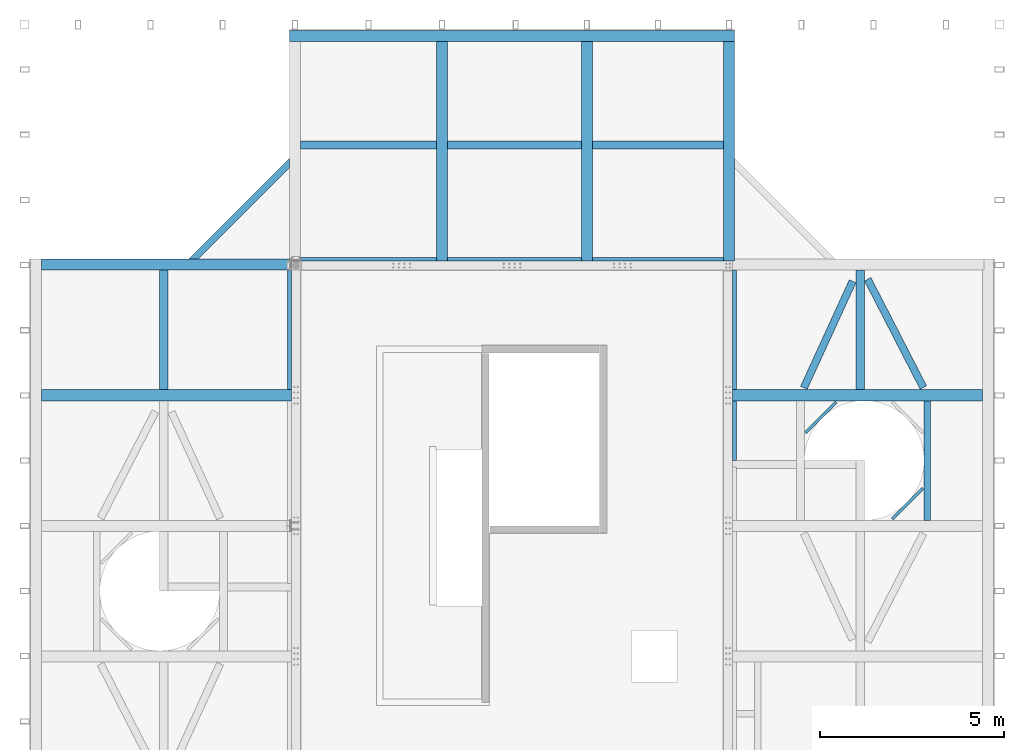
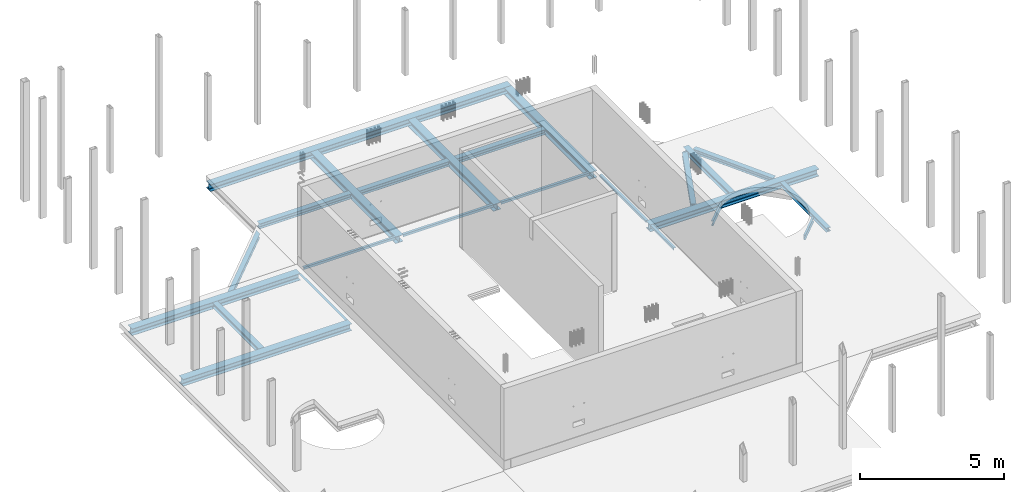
# One storey, part 9 of 16: 24 beams.
"""IFC2X3 building model written with IfcOpenShell, lengths in millimetres."""

import ifcopenshell
import ifcopenshell.guid

model = None  # the IFC model being written
_history = None  # IfcOwnerHistory: only IFC2X3 demands one
_inside = {}  # id of a spatial element -> (the spatial element, [elements in it])
_under = {}  # id of a project, library or spatial element -> (it, [spatial elements below it])
_declared = {}  # id of a project -> (the project, [libraries it declares])
_typed = {}  # id of a type object -> (the type object, [elements of that type])
_made_of = {}  # id of a material, layer set ... -> (it, [elements and type objects made of it])


def new_model(schema):
    """Start an empty IFC model of exactly this schema.

    Asked for "IFC4X3", IfcOpenShell would pick the latest addendum, in which some entities
    have other attributes; the version numbers below select the first issue.
    IFC2X3 requires an IfcOwnerHistory on every rooted entity: one is made here for all.
    """
    global model, _history
    if schema == "IFC4X3":
        model = ifcopenshell.file(schema_version=(4, 3, 0, 0))
    else:
        model = ifcopenshell.file(schema=schema)
    _inside.clear()
    _under.clear()
    _declared.clear()
    _typed.clear()
    _made_of.clear()
    _history = None
    if model.schema == "IFC2X3":
        org = make("IfcOrganization", Name="unknown")
        user = make(
            "IfcPersonAndOrganization",
            ThePerson=make("IfcPerson", FamilyName="unknown"),
            TheOrganization=org,
        )
        app = make(
            "IfcApplication",
            ApplicationDeveloper=org,
            Version="unknown",
            ApplicationFullName="unknown",
            ApplicationIdentifier="unknown",
        )
        _history = make(
            "IfcOwnerHistory",
            OwningUser=user,
            OwningApplication=app,
            ChangeAction="ADDED",
            CreationDate=0,
        )
    return model


def make(cls, **values):
    """One entity of the class cls with the attributes given. An attribute that is None is left unset."""
    return model.create_entity(
        cls, **{name: value for name, value in values.items() if value is not None}
    )


def entity(cls, *values):
    """Any entity or typed value of the class cls, its attributes in the order of the schema. None: left unset."""
    e = model.create_entity(cls)
    for i, value in enumerate(values):
        if value is not None:
            e[i] = value
    return e


def rooted(cls, **values):
    """An entity with a GlobalId (a new one), such as an element, a storey or a relation."""
    return make(cls, GlobalId=ifcopenshell.guid.new(), OwnerHistory=_history, **values)


def si_unit(unit_type, name, prefix=None):
    """IfcSIUnit, for example si_unit("LENGTHUNIT", "METRE", prefix="MILLI")."""
    return make("IfcSIUnit", UnitType=unit_type, Prefix=prefix, Name=name)


def converted_unit(unit_type, name, factor, base, dimensions=None, offset=None):
    """IfcConversionBasedUnit, such as the inch: factor (a typed value) times the base unit."""
    return make(
        "IfcConversionBasedUnit"
        if offset is None
        else "IfcConversionBasedUnitWithOffset",
        ConversionOffset=offset,
        Dimensions=None
        if dimensions is None
        else entity("IfcDimensionalExponents", *dimensions),
        UnitType=unit_type,
        Name=name,
        ConversionFactor=make(
            "IfcMeasureWithUnit", ValueComponent=factor, UnitComponent=base
        ),
    )


def derived_unit(unit_type, elements):
    """IfcDerivedUnit: a product of units, each with its exponent."""
    return make(
        "IfcDerivedUnit",
        Elements=[
            make("IfcDerivedUnitElement", Unit=unit, Exponent=power)
            for unit, power in elements
        ],
        UnitType=unit_type,
    )


def assignment(units):
    """IfcUnitAssignment: the units of a project."""
    return None if units is None else make("IfcUnitAssignment", Units=units)


def point(xyz):
    """IfcCartesianPoint."""
    return None if xyz is None else make("IfcCartesianPoint", Coordinates=xyz)


def direction(xyz):
    """IfcDirection."""
    return None if xyz is None else make("IfcDirection", DirectionRatios=xyz)


def frame(location, z_axis=None, x_axis=None):
    """IfcAxis2Placement3D, a coordinate frame: its origin and axes. An axis left out is left unset."""
    return make(
        "IfcAxis2Placement3D",
        Location=point(location),
        Axis=direction(z_axis),
        RefDirection=direction(x_axis),
    )


def frame_2d(location, x_axis=None):
    """IfcAxis2Placement2D, a coordinate frame in the plane: its origin and x axis."""
    return make(
        "IfcAxis2Placement2D", Location=point(location), RefDirection=direction(x_axis)
    )


def origin():
    """The frame at (0, 0, 0) with its axes left unset."""
    return frame((0.0, 0.0, 0.0))


def place(relative_to, where):
    """IfcLocalPlacement: puts the frame where relative to a parent placement (None: the world)."""
    return make(
        "IfcLocalPlacement", PlacementRelTo=relative_to, RelativePlacement=where
    )


def context(
    kind, dimensions, precision=None, world=None, true_north=None, identifier=None
):
    """IfcGeometricRepresentationContext, for example the 3D "Model" context."""
    return make(
        "IfcGeometricRepresentationContext",
        ContextIdentifier=identifier,
        ContextType=kind,
        CoordinateSpaceDimension=dimensions,
        Precision=precision,
        WorldCoordinateSystem=world,
        TrueNorth=true_north,
    )


def subcontext(parent, identifier, kind, view, scale=None):
    """IfcGeometricRepresentationSubContext, for example "Body" below "Model"."""
    return make(
        "IfcGeometricRepresentationSubContext",
        ContextIdentifier=identifier,
        ContextType=kind,
        ParentContext=parent,
        TargetScale=scale,
        TargetView=view,
    )


def project(units=None, contexts=None):
    """IfcProject with its units and contexts."""
    return rooted(
        "IfcProject",
        Name="project",
        RepresentationContexts=contexts,
        UnitsInContext=assignment(units),
    )


def spatial(cls, under=None, at=None, **own):
    """A site, building, storey or space (cls), placed at a placement, below another one or the project."""
    s = rooted(cls, ObjectPlacement=at, **own)
    if under is not None:
        _under.setdefault(under.id(), (under, []))[1].append(s)
    return s


def polyline(points):
    """IfcPolyline through the points."""
    return make("IfcPolyline", Points=[point(p) for p in points])


def circle_curve(where, radius):
    """IfcCircle in the frame where."""
    return make("IfcCircle", Position=where, Radius=radius)


def parameter(value):
    """IfcParameterValue: where a trimmed curve begins or ends, as a parameter of its basis curve."""
    return model.create_entity("IfcParameterValue", value)


def trimmed(basis, trim1, trim2, sense, master):
    """IfcTrimmedCurve: the piece of a basis curve between two trims."""
    return make(
        "IfcTrimmedCurve",
        BasisCurve=basis,
        Trim1=trim1,
        Trim2=trim2,
        SenseAgreement=sense,
        MasterRepresentation=master,
    )


def segment(curve, same_sense, transition):
    """IfcCompositeCurveSegment."""
    return make(
        "IfcCompositeCurveSegment",
        Transition=transition,
        SameSense=same_sense,
        ParentCurve=curve,
    )


def composite_curve(segments, self_intersect=None):
    """IfcCompositeCurve: segments joined end to end."""
    return make("IfcCompositeCurve", Segments=segments, SelfIntersect=self_intersect)


def profile(cls, at=None, kind="AREA", **sizes):
    """A parametric profile (cls). Its sizes go by their IFC names, for example OverallWidth=200.0."""
    return make(cls, ProfileType=kind, Position=at, **sizes)


def i_section(**sizes):
    """IfcIShapeProfileDef."""
    return profile("IfcIShapeProfileDef", **sizes)


def outline(outer, holes=None, kind="AREA"):
    """IfcArbitraryClosedProfileDef: a profile drawn as a closed curve; with holes, ...WithVoids."""
    if holes is None:
        return make("IfcArbitraryClosedProfileDef", ProfileType=kind, OuterCurve=outer)
    return make(
        "IfcArbitraryProfileDefWithVoids",
        ProfileType=kind,
        OuterCurve=outer,
        InnerCurves=holes,
    )


def extrude(swept, where, along, depth):
    """IfcExtrudedAreaSolid: the profile swept, set in the frame where, extruded along a direction by depth."""
    return make(
        "IfcExtrudedAreaSolid",
        SweptArea=swept,
        Position=where,
        ExtrudedDirection=direction(along),
        Depth=depth,
    )


def clip(a, b, op="DIFFERENCE"):
    """IfcBooleanClippingResult: the solid a cut by the half space b."""
    return make(
        "IfcBooleanClippingResult", Operator=op, FirstOperand=a, SecondOperand=b
    )


def halfspace(plane, agree):
    """IfcHalfSpaceSolid: all space on one side of the plane z = 0 of the frame plane."""
    return make(
        "IfcHalfSpaceSolid",
        BaseSurface=make("IfcPlane", Position=plane),
        AgreementFlag=agree,
    )


def shape(context_of_items, identifier, shape_type, items):
    """IfcShapeRepresentation: the items that make up one representation, for example the "Body"."""
    return make(
        "IfcShapeRepresentation",
        ContextOfItems=context_of_items,
        RepresentationIdentifier=identifier,
        RepresentationType=shape_type,
        Items=items,
    )


def material(Name=None, Category=None):
    """IfcMaterial."""
    return make("IfcMaterial", Name=Name, Category=Category)


def made_of(thing, what):
    """Note that an element or type object is made of a material, layer set ...; save() writes the relation."""
    if what is not None:
        _made_of.setdefault(what.id(), (what, []))[1].append(thing)
    return thing


def type_object(cls, material=None, **own):
    """A type object (cls), such as IfcWallType, which elements share."""
    return made_of(rooted(cls, **own), material)


def element(
    cls,
    number,
    at=None,
    inside=None,
    cuts=None,
    type_object=None,
    material=None,
    context=None,
    identifier="Body",
    shape_type=None,
    held_by="IfcProductDefinitionShape",
    body=None,
    shapes=None,
    **own,
):
    """One element of the class cls, such as IfcWall. Its Tag is "e" and its number.

    at: its placement. inside: the storey or other place that contains it. cuts: it is an
    opening in that element (IfcRelVoidsElement). A single representation is given by context,
    identifier, shape_type and body (its items); several are given by shapes. held_by: the class
    of the entity that holds the representations. save() writes the other relations.
    """
    e = rooted(cls, Tag="e%d" % number, ObjectPlacement=at, **own)
    if body is not None:
        shapes = [shape(context, identifier, shape_type, body)]
    if shapes is not None:
        e.Representation = make(held_by, Representations=shapes)
    if inside is not None:
        _inside.setdefault(inside.id(), (inside, []))[1].append(e)
    if cuts is not None:
        rooted(
            "IfcRelVoidsElement", RelatingBuildingElement=cuts, RelatedOpeningElement=e
        )
    if type_object is not None:
        _typed.setdefault(type_object.id(), (type_object, []))[1].append(e)
    return made_of(e, material)


def aggregate(whole, parts):
    """IfcRelAggregates: a whole, such as a stair, and the parts it consists of."""
    return rooted("IfcRelAggregates", RelatingObject=whole, RelatedObjects=parts)


def save(model, path):
    """Write the relations noted so far, then the file.

    IfcRelAggregates (storeys below a building ...), IfcRelContainedInSpatialStructure (elements
    in a storey), IfcRelDefinesByType, IfcRelAssociatesMaterial and IfcRelDeclares: one each for
    every whole, place, type object, material and project.
    """
    for whole, parts in _under.values():
        aggregate(whole, parts)
    for where, things in _inside.values():
        rooted(
            "IfcRelContainedInSpatialStructure",
            RelatedElements=things,
            RelatingStructure=where,
        )
    for kind, things in _typed.values():
        rooted("IfcRelDefinesByType", RelatedObjects=things, RelatingType=kind)
    for what, things in _made_of.values():
        rooted("IfcRelAssociatesMaterial", RelatedObjects=things, RelatingMaterial=what)
    for by, libraries in _declared.values():
        rooted("IfcRelDeclares", RelatingContext=by, RelatedDefinitions=libraries)
    model.write(path)


model = new_model("IFC2X3")

# Units and contexts
model_context = context("Model", 3, precision=0.01, world=origin(), true_north=direction((6.12303176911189e-17, 1.0)))
body_context = subcontext(model_context, "Body", "Model", "MODEL_VIEW")
ifc_project = project(units=[si_unit("LENGTHUNIT", "METRE", prefix="MILLI"), si_unit("AREAUNIT", "SQUARE_METRE"), si_unit("VOLUMEUNIT", "CUBIC_METRE"), converted_unit("PLANEANGLEUNIT", "DEGREE", entity("IfcRatioMeasure", 0.0174532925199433), si_unit("PLANEANGLEUNIT", "RADIAN"), dimensions=[0, 0, 0, 0, 0, 0, 0]), si_unit("MASSUNIT", "GRAM", prefix="KILO"), derived_unit("MASSDENSITYUNIT", [(si_unit("MASSUNIT", "GRAM", prefix="KILO"), 1), (si_unit("LENGTHUNIT", "METRE"), -3)]), si_unit("TIMEUNIT", "SECOND"), si_unit("FREQUENCYUNIT", "HERTZ"), si_unit("THERMODYNAMICTEMPERATUREUNIT", "DEGREE_CELSIUS"), derived_unit("THERMALTRANSMITTANCEUNIT", [(si_unit("MASSUNIT", "GRAM", prefix="KILO"), 1), (si_unit("THERMODYNAMICTEMPERATUREUNIT", "KELVIN"), -1), (si_unit("TIMEUNIT", "SECOND"), -3)]), derived_unit("VOLUMETRICFLOWRATEUNIT", [(si_unit("LENGTHUNIT", "METRE"), 3), (si_unit("TIMEUNIT", "SECOND"), -1)]), si_unit("ELECTRICCURRENTUNIT", "AMPERE"), si_unit("ELECTRICVOLTAGEUNIT", "VOLT"), si_unit("POWERUNIT", "WATT"), si_unit("FORCEUNIT", "NEWTON", prefix="KILO"), si_unit("ILLUMINANCEUNIT", "LUX"), si_unit("LUMINOUSFLUXUNIT", "LUMEN"), si_unit("LUMINOUSINTENSITYUNIT", "CANDELA"), derived_unit("USERDEFINED", [(si_unit("MASSUNIT", "GRAM", prefix="KILO"), -1), (si_unit("LENGTHUNIT", "METRE"), -2), (si_unit("TIMEUNIT", "SECOND"), 3), (si_unit("LUMINOUSFLUXUNIT", "LUMEN"), 1)]), derived_unit("LINEARVELOCITYUNIT", [(si_unit("LENGTHUNIT", "METRE"), 1), (si_unit("TIMEUNIT", "SECOND"), -1)]), si_unit("PRESSUREUNIT", "PASCAL"), derived_unit("USERDEFINED", [(si_unit("LENGTHUNIT", "METRE"), -2), (si_unit("MASSUNIT", "GRAM", prefix="KILO"), 1), (si_unit("TIMEUNIT", "SECOND"), -2)])], contexts=[model_context])

# Site, building, storey
site_placement = place(None, origin())
site = spatial("IfcSite", under=ifc_project, at=site_placement, Name="Default", CompositionType="ELEMENT")
building_placement = place(site_placement, origin())
building = spatial("IfcBuilding", under=site, at=building_placement, Name="niet gebruiken", CompositionType="ELEMENT")
storey_placement = place(building_placement, frame((0.0, 0.0, 183150.0)))
storey = spatial("IfcBuildingStorey", under=building, at=storey_placement, Name="58 achtenvijftigste verdieping", CompositionType="ELEMENT", Elevation=183150.0)

# Beams
ifc_material = material(Name="NLRS_h2_staal")
beam_type_1 = type_object("IfcBeamType", Name="NLRS_28.11_SF_WPB_stalen ligger HEA_gen:ligger HEA 200", PredefinedType="BEAM")
beam_1_placement = place(storey_placement, frame((153045.0, 21050.0, -570.0), z_axis=(0.0, 0.0, 1.0), x_axis=(-0.457206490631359, 0.889360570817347, 0.0)))
element("IfcBeam", 1, at=beam_1_placement, inside=storey, type_object=beam_type_1, material=ifc_material, Name="NLRS_28.11_SF_WPB_stalen ligger HEA_gen:ligger HEA 200", ObjectType="NLRS_28.11_SF_WPB_stalen ligger HEA_gen:ligger HEA 200", context=body_context, shape_type="SweptSolid", body=[
    extrude(i_section(OverallWidth=200.000000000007, OverallDepth=189.999999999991, WebThickness=6.49999999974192, FlangeThickness=9.99999999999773, FilletRadius=17.9999999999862, at=frame_2d((0.0, 1.83817405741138e-11), x_axis=(0.0, 1.0))), frame((232.76895232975, 0.0, -95.0), z_axis=(1.0, 0.0, 0.0), x_axis=(0.0, 0.0, -1.0)), (0.0, 0.0, 1.0), 3313.79396714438),
])
beam_2_placement = place(storey_placement, frame((149595.0, 21050.0, -570.0), z_axis=(0.0, 0.0, 1.0), x_axis=(0.416213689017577, 0.909266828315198, 0.0)))
element("IfcBeam", 2, at=beam_2_placement, inside=storey, type_object=beam_type_1, material=ifc_material, Name="NLRS_28.11_SF_WPB_stalen ligger HEA_gen:ligger HEA 200", ObjectType="NLRS_28.11_SF_WPB_stalen ligger HEA_gen:ligger HEA 200", context=body_context, shape_type="SweptSolid", body=[
    extrude(i_section(OverallWidth=200.000000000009, OverallDepth=189.999999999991, WebThickness=6.49999999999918, FlangeThickness=9.99999999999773, FilletRadius=17.9999999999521, at=frame_2d((0.0, 1.84599002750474e-11), x_axis=(0.0, 1.0))), frame((223.442724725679, 0.0, -95.0), z_axis=(1.0, 0.0, 0.0), x_axis=(0.0, 0.0, -1.0)), (0.0, 0.0, 1.0), 3184.92180444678),
])
beam_type_2 = type_object("IfcBeamType", Name="NLRS_28.11_SF_WPB_stalen ligger HEA_gen:ligger HEA 220", PredefinedType="BEAM")
beam_3_placement = place(storey_placement, frame((143933.333333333, 27855.0, -570.0)))
element("IfcBeam", 3, at=beam_3_placement, inside=storey, type_object=beam_type_2, material=ifc_material, Name="NLRS_28.11_SF_WPB_stalen ligger HEA_gen:ligger HEA 220", ObjectType="NLRS_28.11_SF_WPB_stalen ligger HEA_gen:ligger HEA 220", context=body_context, shape_type="SweptSolid", body=[
    extrude(i_section(OverallWidth=219.999999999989, OverallDepth=209.999999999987, WebThickness=7.00000000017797, FlangeThickness=10.9999999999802, FilletRadius=17.9999999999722, at=frame_2d((-3.46531692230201e-11, -4.32720526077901e-12), x_axis=(0.0, 1.0))), frame((0.0, 0.0, -105.0), z_axis=(1.0, 0.0, 0.0), x_axis=(0.0, 0.0, -1.0)), (0.0, 0.0, 1.0), 3566.66000000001),
])
beam_4_placement = place(storey_placement, frame((151220.0, 21200.0, -570.0), z_axis=(0.0, 0.0, 1.0), x_axis=(0.0, 1.0, 0.0)))
element("IfcBeam", 4, at=beam_4_placement, inside=storey, type_object=beam_type_2, material=ifc_material, Name="NLRS_28.11_SF_WPB_stalen ligger HEA_gen:ligger HEA 220", ObjectType="NLRS_28.11_SF_WPB_stalen ligger HEA_gen:ligger HEA 220", context=body_context, shape_type="SweptSolid", body=[
    extrude(i_section(OverallWidth=219.999999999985, OverallDepth=209.999999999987, WebThickness=7.00000000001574, FlangeThickness=10.9999999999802, FilletRadius=17.9999999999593, at=frame_2d((-3.46531692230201e-11, 3.46531692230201e-11), x_axis=(0.0, 1.0))), frame((0.0, 0.0, -105.0), z_axis=(1.0, 0.0, 0.0), x_axis=(0.0, 0.0, -1.0)), (0.0, 0.0, 1.0), 3250.0),
])
beam_5_placement = place(storey_placement, frame((139700.0, 27855.0, -570.0), z_axis=(0.0, 0.0, 1.0), x_axis=(-1.0, 0.0, 0.0)))
element("IfcBeam", 5, at=beam_5_placement, inside=storey, type_object=beam_type_2, material=ifc_material, Name="NLRS_28.11_SF_WPB_stalen ligger HEA_gen:ligger HEA 220", ObjectType="NLRS_28.11_SF_WPB_stalen ligger HEA_gen:ligger HEA 220", context=body_context, shape_type="SweptSolid", body=[
    extrude(i_section(OverallWidth=220.000000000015, OverallDepth=209.999999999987, WebThickness=6.99999999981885, FlangeThickness=10.9999999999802, FilletRadius=17.9999999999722, at=frame_2d((-3.46531692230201e-11, 0.0), x_axis=(0.0, 1.0))), frame((0.0, 0.0, -105.0), z_axis=(1.0, 0.0, 0.0), x_axis=(0.0, 0.0, -1.0)), (0.0, 0.0, 1.0), 3699.99999999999),
])
beam_6_placement = place(storey_placement, frame((143633.33, 27855.0, -570.0), z_axis=(0.0, 0.0, 1.0), x_axis=(-1.0, 0.0, 0.0)))
element("IfcBeam", 6, at=beam_6_placement, inside=storey, type_object=beam_type_2, material=ifc_material, Name="NLRS_28.11_SF_WPB_stalen ligger HEA_gen:ligger HEA 220", ObjectType="NLRS_28.11_SF_WPB_stalen ligger HEA_gen:ligger HEA 220", context=body_context, shape_type="SweptSolid", body=[
    extrude(i_section(OverallWidth=220.000000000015, OverallDepth=209.999999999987, WebThickness=6.99999999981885, FlangeThickness=10.9999999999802, FilletRadius=17.9999999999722, at=frame_2d((-3.46531692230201e-11, -4.32720526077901e-12), x_axis=(0.0, 1.0))), frame((0.0, 0.0, -105.0), z_axis=(1.0, 0.0, 0.0), x_axis=(0.0, 0.0, -1.0)), (0.0, 0.0, 1.0), 3633.33000000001),
])
beam_7_placement = place(storey_placement, frame((132280.0, 24450.0, -570.0), z_axis=(0.0, 0.0, 1.0), x_axis=(0.0, -1.0, 0.0)))
element("IfcBeam", 7, at=beam_7_placement, inside=storey, type_object=beam_type_2, material=ifc_material, Name="NLRS_28.11_SF_WPB_stalen ligger HEA_gen:ligger HEA 220", ObjectType="NLRS_28.11_SF_WPB_stalen ligger HEA_gen:ligger HEA 220", context=body_context, shape_type="SweptSolid", body=[
    extrude(i_section(OverallWidth=220.000000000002, OverallDepth=209.999999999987, WebThickness=7.00000000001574, FlangeThickness=11.0000000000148, FilletRadius=17.9999999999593, at=frame_2d((-3.46531692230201e-11, 1.73301373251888e-11), x_axis=(0.0, 1.0))), frame((0.0, 0.0, -105.0), z_axis=(1.0, 0.0, 0.0), x_axis=(0.0, 0.0, -1.0)), (0.0, 0.0, 1.0), 3250.0),
])
beam_type_3 = type_object("IfcBeamType", Name="NLRS_28.11_SF_WPB_stalen ligger HEA_gen:ligger HEA 300", PredefinedType="BEAM")
beam_8_placement = place(storey_placement, frame((147650.0, 24700.0, -570.0), z_axis=(0.0, 0.0, 1.0), x_axis=(0.0, 1.0, 0.0)))
element("IfcBeam", 8, at=beam_8_placement, inside=storey, type_object=beam_type_3, material=ifc_material, Name="NLRS_28.11_SF_WPB_stalen ligger HEA_gen:ligger HEA 300", ObjectType="NLRS_28.11_SF_WPB_stalen ligger HEA_gen:ligger HEA 300", context=body_context, shape_type="SweptSolid", body=[
    extrude(i_section(OverallWidth=300.000000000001, OverallDepth=289.999999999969, WebThickness=8.50000000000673, FlangeThickness=13.9999999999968, FilletRadius=27.0000000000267, at=frame_2d((-3.46460637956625e-11, 0.0), x_axis=(0.0, 1.0))), frame((0.0, 0.0, -145.0), z_axis=(1.0, 0.0, 0.0), x_axis=(0.0, 0.0, -1.0)), (0.0, 0.0, 1.0), 5964.0),
])
beam_9_placement = place(storey_placement, frame((135725.0, 24600.0, -570.0), z_axis=(0.0, 0.0, 1.0), x_axis=(-1.0, 0.0, 0.0)))
element("IfcBeam", 9, at=beam_9_placement, inside=storey, type_object=beam_type_3, material=ifc_material, Name="NLRS_28.11_SF_WPB_stalen ligger HEA_gen:ligger HEA 300", ObjectType="NLRS_28.11_SF_WPB_stalen ligger HEA_gen:ligger HEA 300", context=body_context, shape_type="SweptSolid", body=[
    extrude(i_section(OverallWidth=300.000000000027, OverallDepth=289.999999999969, WebThickness=8.49999999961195, FlangeThickness=13.9999999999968, FilletRadius=27.0000000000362, at=frame_2d((-3.46460637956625e-11, 0.0), x_axis=(0.0, 1.0))), frame((0.0, 0.0, -145.0), z_axis=(1.0, 0.0, 0.0), x_axis=(0.0, 0.0, -1.0)), (0.0, 0.0, 1.0), 6764.00000000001),
])
beam_10_placement = place(storey_placement, frame((147800.0, 30964.0, -570.0), z_axis=(0.0, 0.0, 1.0), x_axis=(-1.0, 0.0, 0.0)))
element("IfcBeam", 10, at=beam_10_placement, inside=storey, type_object=beam_type_3, material=ifc_material, Name="NLRS_28.11_SF_WPB_stalen ligger HEA_gen:ligger HEA 300", ObjectType="NLRS_28.11_SF_WPB_stalen ligger HEA_gen:ligger HEA 300", context=body_context, shape_type="SweptSolid", body=[
    extrude(i_section(OverallWidth=300.000000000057, OverallDepth=290.000000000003, WebThickness=8.49999999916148, FlangeThickness=14.0000000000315, FilletRadius=27.0000000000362, at=frame_2d((-3.46460637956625e-11, 0.0), x_axis=(0.0, 1.0))), frame((0.0, 150.0, -145.0), z_axis=(1.0, 0.0, 0.0), x_axis=(0.0, 0.0, -1.0)), (0.0, 0.0, 1.0), 12099.9999999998),
])
beam_11_placement = place(storey_placement, frame((143783.333333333, 24700.0, -570.0), z_axis=(0.0, 0.0, 1.0), x_axis=(0.0, 1.0, 0.0)))
element("IfcBeam", 11, at=beam_11_placement, inside=storey, type_object=beam_type_3, material=ifc_material, Name="NLRS_28.11_SF_WPB_stalen ligger HEA_gen:ligger HEA 300", ObjectType="NLRS_28.11_SF_WPB_stalen ligger HEA_gen:ligger HEA 300", context=body_context, shape_type="SweptSolid", body=[
    extrude(i_section(OverallWidth=300.000000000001, OverallDepth=289.999999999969, WebThickness=8.50000000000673, FlangeThickness=13.9999999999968, FilletRadius=27.0000000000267, at=frame_2d((-3.46460637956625e-11, -3.46602746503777e-11), x_axis=(0.0, 1.0))), frame((0.0, 0.0, -145.0), z_axis=(1.0, 0.0, 0.0), x_axis=(0.0, 0.0, -1.0)), (0.0, 0.0, 1.0), 5964.0),
])
beam_12_placement = place(storey_placement, frame((139850.0, 24700.0, -570.0), z_axis=(0.0, 0.0, 1.0), x_axis=(0.0, 1.0, 0.0)))
element("IfcBeam", 12, at=beam_12_placement, inside=storey, type_object=beam_type_3, material=ifc_material, Name="NLRS_28.11_SF_WPB_stalen ligger HEA_gen:ligger HEA 300", ObjectType="NLRS_28.11_SF_WPB_stalen ligger HEA_gen:ligger HEA 300", context=body_context, shape_type="SweptSolid", body=[
    extrude(i_section(OverallWidth=300.000000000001, OverallDepth=289.999999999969, WebThickness=8.50000000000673, FlangeThickness=13.9999999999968, FilletRadius=27.0000000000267, at=frame_2d((-3.46460637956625e-11, 1.73230318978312e-11), x_axis=(0.0, 1.0))), frame((0.0, 0.0, -145.0), z_axis=(1.0, 0.0, 0.0), x_axis=(0.0, 0.0, -1.0)), (0.0, 0.0, 1.0), 5964.0),
])
beam_13_placement = place(storey_placement, frame((135750.0, 21050.0, -570.0), z_axis=(0.0, 0.0, 1.0), x_axis=(-1.0, 0.0, 0.0)))
element("IfcBeam", 13, at=beam_13_placement, inside=storey, type_object=beam_type_3, material=ifc_material, Name="NLRS_28.11_SF_WPB_stalen ligger HEA_gen:ligger HEA 300", ObjectType="NLRS_28.11_SF_WPB_stalen ligger HEA_gen:ligger HEA 300", context=body_context, shape_type="SweptSolid", body=[
    extrude(i_section(OverallWidth=300.000000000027, OverallDepth=289.999999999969, WebThickness=8.49999999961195, FlangeThickness=13.9999999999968, FilletRadius=27.0000000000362, at=frame_2d((-3.46460637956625e-11, 0.0), x_axis=(0.0, 1.0))), frame((0.0, 0.0, -145.0), z_axis=(1.0, 0.0, 0.0), x_axis=(0.0, 0.0, -1.0)), (0.0, 0.0, 1.0), 6789.0),
])
beam_type_4 = type_object("IfcBeamType", Name="NLRS_28.11_SF_WPB_stalen ligger HEB_gen:ligger HEB 300", PredefinedType="BEAM")
beam_14_placement = place(storey_placement, frame((154539.0, 21050.0, -570.0), z_axis=(0.0, 0.0, 1.0), x_axis=(-1.0, 0.0, 0.0)))
element("IfcBeam", 14, at=beam_14_placement, inside=storey, type_object=beam_type_4, material=ifc_material, Name="NLRS_28.11_SF_WPB_stalen ligger HEB_gen:ligger HEB 300", ObjectType="NLRS_28.11_SF_WPB_stalen ligger HEB_gen:ligger HEB 300", context=body_context, shape_type="SweptSolid", body=[
    extrude(i_section(OverallWidth=300.000000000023, OverallDepth=300.000000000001, WebThickness=10.9999999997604, FlangeThickness=18.9999999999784, FilletRadius=27.0000000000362, at=frame_2d((0.0, 4.33431068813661e-12), x_axis=(0.0, 1.0))), frame((0.0, 0.0, -150.0), z_axis=(1.0, 0.0, 0.0), x_axis=(0.0, 0.0, -1.0)), (0.0, 0.0, 1.0), 6789.0),
])
beam_type_5 = type_object("IfcBeamType", Name="NLRS_28.11_SF_WPB_stalen ligger HEA_gen:ligger HEA 180", PredefinedType="BEAM")
beam_15_placement = place(storey_placement, frame((136338.183258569, 28000.9040379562, -570.0), z_axis=(0.0, 0.0, 1.0), x_axis=(-0.70710678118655, -0.707106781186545, 0.0)))
element("IfcBeam", 15, at=beam_15_placement, inside=storey, type_object=beam_type_5, material=ifc_material, Name="NLRS_28.11_SF_WPB_stalen ligger HEA_gen:ligger HEA 180", ObjectType="NLRS_28.11_SF_WPB_stalen ligger HEA_gen:ligger HEA 180", context=body_context, shape_type="Clipping", body=[
    clip(clip(extrude(i_section(OverallWidth=180.000000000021, OverallDepth=171.000000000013, WebThickness=6.00000000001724, FlangeThickness=9.49999999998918, FilletRadius=15.0000000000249, at=frame_2d((-3.46460637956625e-11, -1.07149844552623e-11), x_axis=(0.0, 1.0))), frame((812.527419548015, 0.0, -85.5000000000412), z_axis=(1.0, 0.0, 0.0), x_axis=(0.0, 0.0, -1.0)), (0.0, 0.0, 1.0), 3874.94516090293), halfspace(frame((5226.64150110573, -629.168920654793, -5385.50000000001), z_axis=(0.707106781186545, 0.70710678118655, 0.0), x_axis=(0.0, 0.0, 1.0)), False)), halfspace(frame((27714.4803005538, 26811.9528810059, 2165.0), z_axis=(-0.70710678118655, 0.707106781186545, 0.0), x_axis=(0.707106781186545, 0.70710678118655, 0.0)), False)),
])
beam_16_placement = place(storey_placement, frame((153045.0, 17650.0, -570.0), z_axis=(0.0, 0.0, 1.0), x_axis=(0.0, 1.0, 0.0)))
element("IfcBeam", 16, at=beam_16_placement, inside=storey, type_object=beam_type_5, material=ifc_material, Name="NLRS_28.11_SF_WPB_stalen ligger HEA_gen:ligger HEA 180", ObjectType="NLRS_28.11_SF_WPB_stalen ligger HEA_gen:ligger HEA 180", context=body_context, shape_type="SweptSolid", body=[
    extrude(i_section(OverallWidth=179.999999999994, OverallDepth=171.000000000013, WebThickness=5.99999999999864, FlangeThickness=9.49999999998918, FilletRadius=15.0000000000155, at=frame_2d((-3.46460637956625e-11, -1.73301373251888e-11), x_axis=(0.0, 1.0))), frame((0.0, 0.0, -85.5000000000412), z_axis=(1.0, 0.0, 0.0), x_axis=(0.0, 0.0, -1.0)), (0.0, 0.0, 1.0), 3250.0),
])
beam_type_6 = type_object("IfcBeamType", Name="NLRS_28.11_SF_WPB_stalen ligger hoekprofiel gelijkzijdig_gen:ligger gelijzijdig hoekprofiel LEQU_100x100x10", PredefinedType="BEAM")
beam_17_placement = place(storey_placement, frame((135750.0, 24450.0, -570.0), z_axis=(0.0, 0.0, 1.0), x_axis=(0.0, -1.0, 0.0)))
element("IfcBeam", 17, at=beam_17_placement, inside=storey, type_object=beam_type_6, material=ifc_material, Name="NLRS_28.11_SF_WPB_stalen ligger hoekprofiel gelijkzijdig_gen:ligger gelijzijdig hoekprofiel LEQU_100x100x10", ObjectType="NLRS_28.11_SF_WPB_stalen ligger hoekprofiel gelijkzijdig_gen:ligger gelijzijdig hoekprofiel LEQU_100x100x10", context=body_context, shape_type="SweptSolid", body=[
    extrude(outline(composite_curve([segment(polyline([(-37.7777777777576, -62.2222222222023), (-33.7777777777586, -62.2222222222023)]), True, "CONTINUOUS"), segment(trimmed(circle_curve(frame_2d((-33.7777777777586, -56.222222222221), x_axis=(0.0, -1.0)), 5.99999999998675), [parameter(0.0)], [parameter(90.0000000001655)], True, "PARAMETER"), True, "CONTINUOUS"), segment(polyline([(-27.7777777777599, -56.2222222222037), (-27.7777777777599, 15.7777777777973)]), True, "CONTINUOUS"), segment(trimmed(circle_curve(frame_2d((-15.7777777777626, 15.7777777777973), x_axis=(-1.0, 0.0)), 12.0000000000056), [parameter(270.0)], [parameter(0.0)], True, "PARAMETER"), False, "CONTINUOUS"), segment(polyline([(-15.7777777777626, 27.7777777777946), (56.222222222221, 27.7777777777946)]), True, "CONTINUOUS"), segment(trimmed(circle_curve(frame_2d((56.2222222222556, 33.7777777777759), x_axis=(0.0, -1.0)), 5.99999999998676), [parameter(0.0)], [parameter(90.0000000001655)], True, "PARAMETER"), True, "CONTINUOUS"), segment(polyline([(62.2222222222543, 33.7777777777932), (62.2222222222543, 37.7777777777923)]), True, "CONTINUOUS"), segment(polyline([(62.2222222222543, 37.7777777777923), (-37.7777777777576, 37.7777777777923)]), True, "CONTINUOUS"), segment(polyline([(-37.7777777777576, 37.7777777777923), (-37.7777777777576, -62.2222222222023)]), True, "CONTINUOUS")], self_intersect=False)), frame((0.0, -37.7777777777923, -37.7777777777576), z_axis=(1.0, 0.0, 0.0), x_axis=(0.0, 0.0, -1.0)), (0.0, 0.0, 1.0), 3250.0),
])
beam_18_placement = place(storey_placement, frame((147750.0, 21200.3287196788, -570.0), z_axis=(0.0, 0.0, 1.0), x_axis=(0.0, 1.0, 0.0)))
element("IfcBeam", 18, at=beam_18_placement, inside=storey, type_object=beam_type_6, material=ifc_material, Name="NLRS_28.11_SF_WPB_stalen ligger hoekprofiel gelijkzijdig_gen:ligger gelijzijdig hoekprofiel LEQU_100x100x10", ObjectType="NLRS_28.11_SF_WPB_stalen ligger hoekprofiel gelijkzijdig_gen:ligger gelijzijdig hoekprofiel LEQU_100x100x10", context=body_context, shape_type="SweptSolid", body=[
    extrude(outline(composite_curve([segment(polyline([(-37.7777777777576, -62.2222222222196), (-33.7777777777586, -62.2222222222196)]), True, "CONTINUOUS"), segment(trimmed(circle_curve(frame_2d((-33.7777777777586, -56.2222222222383), x_axis=(0.0, -1.0)), 5.99999999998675), [parameter(0.0)], [parameter(90.0000000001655)], True, "PARAMETER"), True, "CONTINUOUS"), segment(polyline([(-27.7777777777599, -56.222222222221), (-27.7777777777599, 15.77777777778)]), True, "CONTINUOUS"), segment(trimmed(circle_curve(frame_2d((-15.7777777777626, 15.77777777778), x_axis=(-1.0, 0.0)), 12.0000000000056), [parameter(270.0)], [parameter(0.0)], True, "PARAMETER"), False, "CONTINUOUS"), segment(polyline([(-15.7777777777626, 27.7777777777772), (56.222222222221, 27.7777777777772)]), True, "CONTINUOUS"), segment(trimmed(circle_curve(frame_2d((56.2222222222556, 33.7777777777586), x_axis=(0.0, -1.0)), 5.99999999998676), [parameter(0.0)], [parameter(90.0000000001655)], True, "PARAMETER"), True, "CONTINUOUS"), segment(polyline([(62.2222222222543, 33.7777777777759), (62.2222222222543, 37.777777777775)]), True, "CONTINUOUS"), segment(polyline([(62.2222222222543, 37.777777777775), (-37.7777777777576, 37.777777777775)]), True, "CONTINUOUS"), segment(polyline([(-37.7777777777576, 37.777777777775), (-37.7777777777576, -62.2222222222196)]), True, "CONTINUOUS")], self_intersect=False)), frame((0.0, -37.7777777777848, -37.7777777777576), z_axis=(1.0, 0.0, 0.0), x_axis=(0.0, 0.0, -1.0)), (0.0, 0.0, 1.0), 3250.0),
])
beam_19_placement = place(storey_placement, frame((147500.0, 24700.0, -570.0), z_axis=(0.0, 0.0, 1.0), x_axis=(-1.0, 0.0, 0.0)))
element("IfcBeam", 19, at=beam_19_placement, inside=storey, type_object=beam_type_6, material=ifc_material, Name="NLRS_28.11_SF_WPB_stalen ligger hoekprofiel gelijkzijdig_gen:ligger gelijzijdig hoekprofiel LEQU_100x100x10", ObjectType="NLRS_28.11_SF_WPB_stalen ligger hoekprofiel gelijkzijdig_gen:ligger gelijzijdig hoekprofiel LEQU_100x100x10", context=body_context, shape_type="SweptSolid", body=[
    extrude(outline(composite_curve([segment(polyline([(-37.777777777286, -62.2222222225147), (-33.7777777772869, -62.2222222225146)]), True, "CONTINUOUS"), segment(trimmed(circle_curve(frame_2d((-33.7777777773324, -56.2222222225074), x_axis=(0.0, -1.0)), 5.99999999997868), [parameter(0.0)], [parameter(90.0000000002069)], True, "PARAMETER"), True, "CONTINUOUS"), segment(polyline([(-27.7777777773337, -56.2222222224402), (-27.7777777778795, 15.7777777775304)]), True, "CONTINUOUS"), segment(trimmed(circle_curve(frame_2d((-15.7777777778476, 15.777777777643), x_axis=(-1.0, 0.0)), 12.0000000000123), [parameter(270.000000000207)], [parameter(0.0)], True, "PARAMETER"), False, "CONTINUOUS"), segment(polyline([(-15.7777777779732, 27.7777777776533), (56.2222222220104, 27.7777777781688)]), True, "CONTINUOUS"), segment(trimmed(circle_curve(frame_2d((56.2222222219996, 33.7777777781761), x_axis=(0.0, -1.0)), 5.99999999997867), [parameter(0.0)], [parameter(90.0000000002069)], True, "PARAMETER"), True, "CONTINUOUS"), segment(polyline([(62.2222222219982, 33.7777777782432), (62.2222222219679, 37.777777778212)]), True, "CONTINUOUS"), segment(polyline([(62.2222222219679, 37.7777777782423), (-37.777777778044, 37.777777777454)]), True, "CONTINUOUS"), segment(polyline([(-37.777777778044, 37.7777777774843), (-37.777777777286, -62.222222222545)]), True, "CONTINUOUS")], self_intersect=False)), frame((0.0, -37.7777777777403, -37.7777777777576), z_axis=(1.0, 0.0, 0.0), x_axis=(0.0, 0.0, -1.0)), (0.0, 0.0, 1.0), 3566.66667),
])
beam_20_placement = place(storey_placement, frame((143633.333330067, 24700.0, -570.0), z_axis=(0.0, 0.0, 1.0), x_axis=(-1.0, 0.0, 0.0)))
element("IfcBeam", 20, at=beam_20_placement, inside=storey, type_object=beam_type_6, material=ifc_material, Name="NLRS_28.11_SF_WPB_stalen ligger hoekprofiel gelijkzijdig_gen:ligger gelijzijdig hoekprofiel LEQU_100x100x10", ObjectType="NLRS_28.11_SF_WPB_stalen ligger hoekprofiel gelijkzijdig_gen:ligger gelijzijdig hoekprofiel LEQU_100x100x10", context=body_context, shape_type="SweptSolid", body=[
    extrude(outline(composite_curve([segment(polyline([(-37.777777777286, -62.2222222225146), (-33.7777777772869, -62.2222222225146)]), True, "CONTINUOUS"), segment(trimmed(circle_curve(frame_2d((-33.7777777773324, -56.2222222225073), x_axis=(0.0, -1.0)), 5.99999999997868), [parameter(0.0)], [parameter(90.0000000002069)], True, "PARAMETER"), True, "CONTINUOUS"), segment(polyline([(-27.7777777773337, -56.2222222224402), (-27.7777777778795, 15.7777777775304)]), True, "CONTINUOUS"), segment(trimmed(circle_curve(frame_2d((-15.7777777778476, 15.777777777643), x_axis=(-1.0, 0.0)), 12.0000000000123), [parameter(270.000000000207)], [parameter(0.0)], True, "PARAMETER"), False, "CONTINUOUS"), segment(polyline([(-15.7777777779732, 27.7777777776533), (56.2222222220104, 27.7777777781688)]), True, "CONTINUOUS"), segment(trimmed(circle_curve(frame_2d((56.2222222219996, 33.7777777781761), x_axis=(0.0, -1.0)), 5.99999999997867), [parameter(0.0)], [parameter(90.0000000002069)], True, "PARAMETER"), True, "CONTINUOUS"), segment(polyline([(62.2222222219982, 33.7777777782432), (62.2222222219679, 37.777777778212)]), True, "CONTINUOUS"), segment(polyline([(62.2222222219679, 37.7777777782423), (-37.777777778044, 37.777777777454)]), True, "CONTINUOUS"), segment(polyline([(-37.777777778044, 37.7777777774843), (-37.777777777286, -62.222222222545)]), True, "CONTINUOUS")], self_intersect=False)), frame((0.0, -37.777777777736, -37.7777777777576), z_axis=(1.0, 0.0, 0.0), x_axis=(0.0, 0.0, -1.0)), (0.0, 0.0, 1.0), 3633.33333),
])
beam_21_placement = place(storey_placement, frame((139700.0, 24700.0, -570.0), z_axis=(0.0, 0.0, 1.0), x_axis=(-1.0, 0.0, 0.0)))
element("IfcBeam", 21, at=beam_21_placement, inside=storey, type_object=beam_type_6, material=ifc_material, Name="NLRS_28.11_SF_WPB_stalen ligger hoekprofiel gelijkzijdig_gen:ligger gelijzijdig hoekprofiel LEQU_100x100x10", ObjectType="NLRS_28.11_SF_WPB_stalen ligger hoekprofiel gelijkzijdig_gen:ligger gelijzijdig hoekprofiel LEQU_100x100x10", context=body_context, shape_type="SweptSolid", body=[
    extrude(outline(composite_curve([segment(polyline([(-37.777777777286, -62.2222222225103), (-33.7777777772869, -62.2222222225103)]), True, "CONTINUOUS"), segment(trimmed(circle_curve(frame_2d((-33.7777777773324, -56.222222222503), x_axis=(0.0, -1.0)), 5.99999999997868), [parameter(0.0)], [parameter(90.0000000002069)], True, "PARAMETER"), True, "CONTINUOUS"), segment(polyline([(-27.7777777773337, -56.2222222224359), (-27.7777777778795, 15.7777777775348)]), True, "CONTINUOUS"), segment(trimmed(circle_curve(frame_2d((-15.7777777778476, 15.7777777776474), x_axis=(-1.0, 0.0)), 12.0000000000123), [parameter(270.000000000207)], [parameter(0.0)], True, "PARAMETER"), False, "CONTINUOUS"), segment(polyline([(-15.7777777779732, 27.7777777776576), (56.2222222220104, 27.7777777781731)]), True, "CONTINUOUS"), segment(trimmed(circle_curve(frame_2d((56.2222222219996, 33.7777777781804), x_axis=(0.0, -1.0)), 5.99999999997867), [parameter(0.0)], [parameter(90.0000000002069)], True, "PARAMETER"), True, "CONTINUOUS"), segment(polyline([(62.2222222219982, 33.7777777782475), (62.2222222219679, 37.7777777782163)]), True, "CONTINUOUS"), segment(polyline([(62.2222222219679, 37.7777777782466), (-37.777777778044, 37.7777777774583)]), True, "CONTINUOUS"), segment(polyline([(-37.777777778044, 37.7777777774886), (-37.777777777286, -62.2222222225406)]), True, "CONTINUOUS")], self_intersect=False)), frame((0.0, -37.7777777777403, -37.7777777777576), z_axis=(1.0, 0.0, 0.0), x_axis=(0.0, 0.0, -1.0)), (0.0, 0.0, 1.0), 3699.99999999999),
])
beam_22_placement = place(storey_placement, frame((147750.0, 19275.0, -570.0), z_axis=(0.0, 0.0, 1.0), x_axis=(0.0, 1.0, 0.0)))
element("IfcBeam", 22, at=beam_22_placement, inside=storey, type_object=beam_type_6, material=ifc_material, Name="NLRS_28.11_SF_WPB_stalen ligger hoekprofiel gelijkzijdig_gen:ligger gelijzijdig hoekprofiel LEQU_100x100x10", ObjectType="NLRS_28.11_SF_WPB_stalen ligger hoekprofiel gelijkzijdig_gen:ligger gelijzijdig hoekprofiel LEQU_100x100x10", context=body_context, shape_type="SweptSolid", body=[
    extrude(outline(composite_curve([segment(polyline([(-37.7777777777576, -62.2222222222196), (-33.7777777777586, -62.2222222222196)]), True, "CONTINUOUS"), segment(trimmed(circle_curve(frame_2d((-33.7777777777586, -56.2222222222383), x_axis=(0.0, -1.0)), 5.99999999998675), [parameter(0.0)], [parameter(90.0000000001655)], True, "PARAMETER"), True, "CONTINUOUS"), segment(polyline([(-27.7777777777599, -56.222222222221), (-27.7777777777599, 15.77777777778)]), True, "CONTINUOUS"), segment(trimmed(circle_curve(frame_2d((-15.7777777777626, 15.77777777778), x_axis=(-1.0, 0.0)), 12.0000000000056), [parameter(270.0)], [parameter(0.0)], True, "PARAMETER"), False, "CONTINUOUS"), segment(polyline([(-15.7777777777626, 27.7777777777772), (56.222222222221, 27.7777777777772)]), True, "CONTINUOUS"), segment(trimmed(circle_curve(frame_2d((56.2222222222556, 33.7777777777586), x_axis=(0.0, -1.0)), 5.99999999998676), [parameter(0.0)], [parameter(90.0000000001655)], True, "PARAMETER"), True, "CONTINUOUS"), segment(polyline([(62.2222222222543, 33.7777777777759), (62.2222222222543, 37.777777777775)]), True, "CONTINUOUS"), segment(polyline([(62.2222222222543, 37.777777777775), (-37.7777777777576, 37.777777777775)]), True, "CONTINUOUS"), segment(polyline([(-37.7777777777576, 37.777777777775), (-37.7777777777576, -62.2222222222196)]), True, "CONTINUOUS")], self_intersect=False)), frame((0.0, -37.7777777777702, -37.7777777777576), z_axis=(1.0, 0.0, 0.0), x_axis=(0.0, 0.0, -1.0)), (0.0, 0.0, 1.0), 1625.0),
])
beam_type_7 = type_object("IfcBeamType", Name="NLRS_28.11_SF_WPB_stalen ligger UNP_gen:ligger UNP 200", PredefinedType="BEAM")
beam_23_placement = place(storey_placement, frame((149595.0, 19838.0970388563, -570.0), z_axis=(0.0, 0.0, 1.0), x_axis=(0.707106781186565, 0.70710678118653, 0.0)))
element("IfcBeam", 23, at=beam_23_placement, inside=storey, type_object=beam_type_7, material=ifc_material, Name="NLRS_28.11_SF_WPB_stalen ligger UNP_gen:ligger UNP 200", ObjectType="NLRS_28.11_SF_WPB_stalen ligger UNP_gen:ligger UNP 200", context=body_context, shape_type="SweptSolid", body=[
    extrude(outline(composite_curve([segment(polyline([(-100.062397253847, -41.2499999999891), (99.9376027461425, -41.24999999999)]), True, "CONTINUOUS"), segment(polyline([(99.9376027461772, -41.2499999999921), (99.9376027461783, 33.7500000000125)]), True, "CONTINUOUS"), segment(polyline([(99.9376027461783, 33.7500000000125), (94.8577017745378, 33.7500000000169)]), True, "CONTINUOUS"), segment(trimmed(circle_curve(frame_2d((94.8577017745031, 27.7500000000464), x_axis=(0.0, 1.0)), 5.99999999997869), [parameter(0.0)], [parameter(90.0000000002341)], True, "PARAMETER"), True, "CONTINUOUS"), segment(polyline([(88.8577017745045, 27.7500000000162), (85.905412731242, -21.24999999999)]), True, "CONTINUOUS"), segment(trimmed(circle_curve(frame_2d((74.4054127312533, -21.2500000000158), x_axis=(1.0, 0.0)), 11.4999999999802), [parameter(269.999999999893)], [parameter(0.0)], True, "PARAMETER"), False, "CONTINUOUS"), segment(polyline([(74.4054127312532, -32.7499999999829), (-73.890860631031, -32.7499999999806)]), True, "CONTINUOUS"), segment(trimmed(circle_curve(frame_2d((-73.8908606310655, -21.2500000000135), x_axis=(0.0, -1.0)), 11.4999999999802), [parameter(269.999999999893)], [parameter(0.0)], True, "PARAMETER"), False, "CONTINUOUS"), segment(polyline([(-85.3908606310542, -21.2499999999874), (-89.2474593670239, 27.7500000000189)]), True, "CONTINUOUS"), segment(trimmed(circle_curve(frame_2d((-95.2474593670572, 27.7500000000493), x_axis=(1.0, 0.0)), 5.99999999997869), [parameter(0.0)], [parameter(90.0000000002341)], True, "PARAMETER"), True, "CONTINUOUS"), segment(polyline([(-95.2474593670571, 33.7500000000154), (-100.062397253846, 33.7500000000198)]), True, "CONTINUOUS"), segment(polyline([(-100.062397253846, 33.7500000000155), (-100.062397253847, -41.2499999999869)]), True, "CONTINUOUS")], self_intersect=False)), frame((230.563491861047, 41.2500000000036, -100.062397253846), z_axis=(1.0, 0.0, 0.0), x_axis=(0.0, 0.0, -1.0)), (0.0, 0.0, 1.0), 1186.19407771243),
])
beam_24_placement = place(storey_placement, frame((153045.0, 18691.9029611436, -570.0), z_axis=(0.0, 0.0, 1.0), x_axis=(-0.707106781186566, -0.707106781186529, 0.0)))
element("IfcBeam", 24, at=beam_24_placement, inside=storey, type_object=beam_type_7, material=ifc_material, Name="NLRS_28.11_SF_WPB_stalen ligger UNP_gen:ligger UNP 200", ObjectType="NLRS_28.11_SF_WPB_stalen ligger UNP_gen:ligger UNP 200", context=body_context, shape_type="SweptSolid", body=[
    extrude(outline(composite_curve([segment(polyline([(-100.06239725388, -41.250000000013), (99.9376027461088, -41.2500000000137)]), True, "CONTINUOUS"), segment(polyline([(99.9376027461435, -41.2500000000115), (99.9376027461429, 33.7500000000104)]), True, "CONTINUOUS"), segment(polyline([(99.9376027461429, 33.7500000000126), (94.8577017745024, 33.7500000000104)]), True, "CONTINUOUS"), segment(trimmed(circle_curve(frame_2d((94.8577017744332, 27.7500000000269), x_axis=(0.0, 1.0)), 5.99999999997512), [parameter(0.0)], [parameter(90.000000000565)], True, "PARAMETER"), True, "CONTINUOUS"), segment(polyline([(88.8577017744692, 27.750000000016), (85.9054127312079, -21.2499999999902)]), True, "CONTINUOUS"), segment(trimmed(circle_curve(frame_2d((74.4054127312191, -21.2500000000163), x_axis=(1.0, 0.0)), 11.4999999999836), [parameter(269.999999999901)], [parameter(0.0)], True, "PARAMETER"), False, "CONTINUOUS"), segment(polyline([(74.4054127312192, -32.7499999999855), (-73.8908606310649, -32.7500000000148)]), True, "CONTINUOUS"), segment(trimmed(circle_curve(frame_2d((-73.8908606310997, -21.2500000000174), x_axis=(0.0, -1.0)), 11.4999999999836), [parameter(269.999999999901)], [parameter(0.0)], True, "PARAMETER"), False, "CONTINUOUS"), segment(polyline([(-85.3908606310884, -21.2499999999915), (-89.2474593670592, 27.7499999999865)]), True, "CONTINUOUS"), segment(trimmed(circle_curve(frame_2d((-95.2474593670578, 27.7500000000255), x_axis=(1.0, 0.0)), 5.99999999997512), [parameter(0.0)], [parameter(90.000000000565)], True, "PARAMETER"), True, "CONTINUOUS"), segment(polyline([(-95.2474593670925, 33.7500000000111), (-100.062397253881, 33.7500000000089)]), True, "CONTINUOUS"), segment(polyline([(-100.062397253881, 33.750000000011), (-100.06239725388, -41.2500000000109)]), True, "CONTINUOUS")], self_intersect=False)), frame((202.279220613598, 41.2500000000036, -100.062397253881), z_axis=(1.0, 0.0, 0.0), x_axis=(0.0, 0.0, -1.0)), (0.0, 0.0, 1.0), 1186.19407771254),
])

save(model, "model.ifc")
